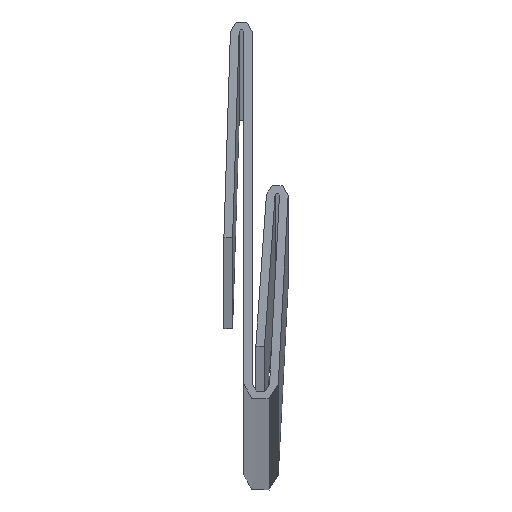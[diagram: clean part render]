
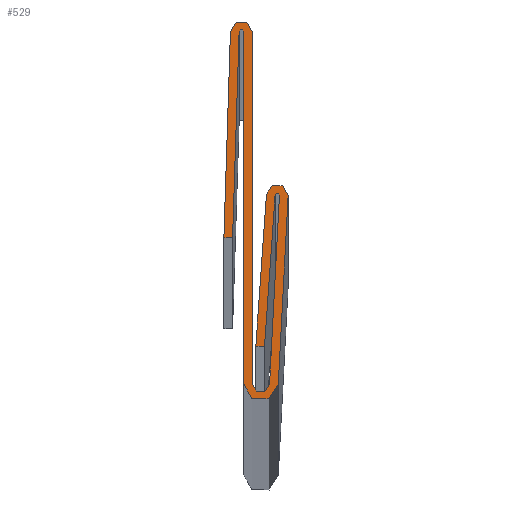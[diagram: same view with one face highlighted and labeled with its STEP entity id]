
A CAD part, top view. The second image highlights one B-rep face of the part: STEP entity #529.
In plain terms, the highlighted planar face has unit normal (0, 0, 1).
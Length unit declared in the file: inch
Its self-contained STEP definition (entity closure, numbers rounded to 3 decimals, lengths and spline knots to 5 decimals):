
#3 = VECTOR ( 'NONE', #233, 39.37008 ) ;
#4 = EDGE_LOOP ( 'NONE', ( #600, #369, #612, #228, #53, #254, #199, #264, #417, #564, #211, #496, #78, #190, #362, #207 ) ) ;
#6 = CARTESIAN_POINT ( 'NONE',  ( 0., 0.04, 120. ) ) ;
#8 = VECTOR ( 'NONE', #273, 39.37008 ) ;
#10 = DIRECTION ( 'NONE',  ( 1., 0., 0. ) ) ;
#22 = EDGE_CURVE ( 'NONE', #367, #294, #87, .T. ) ;
#28 = CARTESIAN_POINT ( 'NONE',  ( 0.05997, 0.03895, 120. ) ) ;
#35 = EDGE_CURVE ( 'NONE', #471, #408, #246, .T. ) ;
#41 = VECTOR ( 'NONE', #411, 39.37008 ) ;
#42 = EDGE_CURVE ( 'NONE', #84, #471, #185, .T. ) ;
#43 = VECTOR ( 'NONE', #570, 39.37008 ) ;
#49 = DIRECTION ( 'NONE',  ( 1., 0., 0. ) ) ;
#53 = ORIENTED_EDGE ( 'NONE', *, *, #172, .F. ) ;
#54 = AXIS2_PLACEMENT_3D ( 'NONE', #472, #279, #604 ) ;
#55 = CARTESIAN_POINT ( 'NONE',  ( -0.02506, 0.3754, 120. ) ) ;
#58 = VERTEX_POINT ( 'NONE', #129 ) ;
#59 = FACE_OUTER_BOUND ( 'NONE', #4, .T. ) ;
#60 = VERTEX_POINT ( 'NONE', #313 ) ;
#68 = CARTESIAN_POINT ( 'NONE',  ( 0., 0.85, 120. ) ) ;
#71 = CARTESIAN_POINT ( 'NONE',  ( -0.01, 0.85016, 120. ) ) ;
#72 = VERTEX_POINT ( 'NONE', #68 ) ;
#74 = LINE ( 'NONE', #158, #206 ) ;
#78 = ORIENTED_EDGE ( 'NONE', *, *, #306, .T. ) ;
#79 = CARTESIAN_POINT ( 'NONE',  ( 0.05281, 0.4754, 120. ) ) ;
#81 = CARTESIAN_POINT ( 'NONE',  ( 0.05997, 0.03895, 120. ) ) ;
#83 = CARTESIAN_POINT ( 'NONE',  ( 0., 0.04, 120. ) ) ;
#84 = VERTEX_POINT ( 'NONE', #268 ) ;
#87 = LINE ( 'NONE', #162, #563 ) ;
#93 = VECTOR ( 'NONE', #170, 39.37008 ) ;
#100 = CARTESIAN_POINT ( 'NONE',  ( -0.04505, 0.37603, 120. ) ) ;
#101 = VECTOR ( 'NONE', #426, 39.37008 ) ;
#109 = DIRECTION ( 'NONE',  ( 1., 0., 0. ) ) ;
#118 = EDGE_CURVE ( 'NONE', #60, #457, #603, .T. ) ;
#121 = CARTESIAN_POINT ( 'NONE',  ( -0.005, 0.85, 120. ) ) ;
#129 = CARTESIAN_POINT ( 'NONE',  ( 0.05281, 0.4754, 120. ) ) ;
#130 = CIRCLE ( 'NONE', #560, 0.025 ) ;
#131 = LINE ( 'NONE', #28, #498 ) ;
#133 = EDGE_CURVE ( 'NONE', #562, #194, #475, .T. ) ;
#153 = VERTEX_POINT ( 'NONE', #470 ) ;
#158 = CARTESIAN_POINT ( 'NONE',  ( -0.02506, 0.3754, 120. ) ) ;
#162 = CARTESIAN_POINT ( 'NONE',  ( 0.07995, 0.03791, 120. ) ) ;
#163 = CARTESIAN_POINT ( 'NONE',  ( 0.04, 0.04, 120. ) ) ;
#164 = LINE ( 'NONE', #465, #41 ) ;
#170 = DIRECTION ( 'NONE',  ( 0., -1., 0. ) ) ;
#172 = EDGE_CURVE ( 'NONE', #239, #153, #131, .T. ) ;
#181 = CARTESIAN_POINT ( 'NONE',  ( 0.10271, 0.47235, 120. ) ) ;
#182 = CARTESIAN_POINT ( 'NONE',  ( 0.07276, 0.47401, 120. ) ) ;
#185 = CIRCLE ( 'NONE', #189, 0.025 ) ;
#189 = AXIS2_PLACEMENT_3D ( 'NONE', #121, #326, #368 ) ;
#190 = ORIENTED_EDGE ( 'NONE', *, *, #259, .T. ) ;
#194 = VERTEX_POINT ( 'NONE', #235 ) ;
#198 = EDGE_CURVE ( 'NONE', #153, #60, #481, .T. ) ;
#199 = ORIENTED_EDGE ( 'NONE', *, *, #35, .F. ) ;
#206 = VECTOR ( 'NONE', #359, 39.37008 ) ;
#207 = ORIENTED_EDGE ( 'NONE', *, *, #293, .T. ) ;
#211 = ORIENTED_EDGE ( 'NONE', *, *, #133, .T. ) ;
#215 = AXIS2_PLACEMENT_3D ( 'NONE', #446, #402, #10 ) ;
#220 = DIRECTION ( 'NONE',  ( 0.032, 0.999, 0. ) ) ;
#228 = ORIENTED_EDGE ( 'NONE', *, *, #198, .F. ) ;
#233 = DIRECTION ( 'NONE',  ( 0.032, 0.999, 0. ) ) ;
#235 = CARTESIAN_POINT ( 'NONE',  ( -0.01, 0.85016, 120. ) ) ;
#239 = VERTEX_POINT ( 'NONE', #81 ) ;
#242 = EDGE_CURVE ( 'NONE', #58, #414, #363, .T. ) ;
#246 = LINE ( 'NONE', #599, #93 ) ;
#252 = DIRECTION ( 'NONE',  ( 0., 0., -1. ) ) ;
#254 = ORIENTED_EDGE ( 'NONE', *, *, #442, .F. ) ;
#259 = EDGE_CURVE ( 'NONE', #490, #367, #521, .T. ) ;
#260 = CARTESIAN_POINT ( 'NONE',  ( 0.02839, 0.12625, 120. ) ) ;
#264 = ORIENTED_EDGE ( 'NONE', *, *, #42, .F. ) ;
#268 = CARTESIAN_POINT ( 'NONE',  ( -0.02999, 0.85079, 120. ) ) ;
#270 = LINE ( 'NONE', #507, #307 ) ;
#273 = DIRECTION ( 'NONE',  ( -0.07, -0.998, 0. ) ) ;
#276 = DIRECTION ( 'NONE',  ( 1., 0., 0. ) ) ;
#279 = DIRECTION ( 'NONE',  ( 0., 0., 1. ) ) ;
#283 = AXIS2_PLACEMENT_3D ( 'NONE', #495, #252, #49 ) ;
#293 = EDGE_CURVE ( 'NONE', #294, #58, #130, .T. ) ;
#294 = VERTEX_POINT ( 'NONE', #181 ) ;
#305 = CARTESIAN_POINT ( 'NONE',  ( 0.02, 0.85, 120. ) ) ;
#306 = EDGE_CURVE ( 'NONE', #72, #490, #400, .T. ) ;
#307 = VECTOR ( 'NONE', #220, 39.37008 ) ;
#311 = AXIS2_PLACEMENT_3D ( 'NONE', #163, #407, #109 ) ;
#313 = CARTESIAN_POINT ( 'NONE',  ( 0.07276, 0.47401, 120. ) ) ;
#325 = CARTESIAN_POINT ( 'NONE',  ( 0.04, 0.04, 120. ) ) ;
#326 = DIRECTION ( 'NONE',  ( 0., 0., -1. ) ) ;
#337 = CARTESIAN_POINT ( 'NONE',  ( 0.07995, 0.03791, 120. ) ) ;
#340 = CARTESIAN_POINT ( 'NONE',  ( 0.07775, 0.47366, 120. ) ) ;
#359 = DIRECTION ( 'NONE',  ( -0.999, 0.032, 0. ) ) ;
#362 = ORIENTED_EDGE ( 'NONE', *, *, #22, .T. ) ;
#363 = LINE ( 'NONE', #79, #101 ) ;
#367 = VERTEX_POINT ( 'NONE', #337 ) ;
#368 = DIRECTION ( 'NONE',  ( 1., 0., 0. ) ) ;
#369 = ORIENTED_EDGE ( 'NONE', *, *, #567, .F. ) ;
#382 = CIRCLE ( 'NONE', #283, 0.005 ) ;
#383 = VERTEX_POINT ( 'NONE', #100 ) ;
#399 = PLANE ( 'NONE',  #215 ) ;
#400 = LINE ( 'NONE', #83, #43 ) ;
#402 = DIRECTION ( 'NONE',  ( 0., 0., 1. ) ) ;
#407 = DIRECTION ( 'NONE',  ( 0., 0., 1. ) ) ;
#408 = VERTEX_POINT ( 'NONE', #581 ) ;
#411 = DIRECTION ( 'NONE',  ( -0.998, 0.07, 0. ) ) ;
#412 = EDGE_CURVE ( 'NONE', #562, #383, #74, .T. ) ;
#414 = VERTEX_POINT ( 'NONE', #260 ) ;
#417 = ORIENTED_EDGE ( 'NONE', *, *, #576, .F. ) ;
#426 = DIRECTION ( 'NONE',  ( -0.07, -0.998, 0. ) ) ;
#427 = DIRECTION ( 'NONE',  ( 0.052, 0.999, 0. ) ) ;
#433 = DIRECTION ( 'NONE',  ( 0., 0., 1. ) ) ;
#434 = DIRECTION ( 'NONE',  ( 1., 0., 0. ) ) ;
#442 = EDGE_CURVE ( 'NONE', #408, #239, #610, .T. ) ;
#446 = CARTESIAN_POINT ( 'NONE',  ( 0.07775, 0.47366, 120. ) ) ;
#456 = CARTESIAN_POINT ( 'NONE',  ( 0.04834, 0.12485, 120. ) ) ;
#457 = VERTEX_POINT ( 'NONE', #456 ) ;
#465 = CARTESIAN_POINT ( 'NONE',  ( 0.04834, 0.12485, 120. ) ) ;
#470 = CARTESIAN_POINT ( 'NONE',  ( 0.08274, 0.4734, 120. ) ) ;
#471 = VERTEX_POINT ( 'NONE', #305 ) ;
#472 = CARTESIAN_POINT ( 'NONE',  ( 0.07775, 0.47366, 120. ) ) ;
#475 = LINE ( 'NONE', #71, #3 ) ;
#481 = CIRCLE ( 'NONE', #54, 0.005 ) ;
#490 = VERTEX_POINT ( 'NONE', #6 ) ;
#495 = CARTESIAN_POINT ( 'NONE',  ( -0.005, 0.85, 120. ) ) ;
#496 = ORIENTED_EDGE ( 'NONE', *, *, #510, .T. ) ;
#498 = VECTOR ( 'NONE', #427, 39.37008 ) ;
#507 = CARTESIAN_POINT ( 'NONE',  ( -0.02999, 0.85079, 120. ) ) ;
#509 = DIRECTION ( 'NONE',  ( 0.052, 0.999, 0. ) ) ;
#510 = EDGE_CURVE ( 'NONE', #194, #72, #382, .T. ) ;
#521 = CIRCLE ( 'NONE', #528, 0.04 ) ;
#528 = AXIS2_PLACEMENT_3D ( 'NONE', #325, #556, #276 ) ;
#529 = ADVANCED_FACE ( 'NONE', ( #59 ), #399, .T. ) ;
#556 = DIRECTION ( 'NONE',  ( 0., 0., 1. ) ) ;
#560 = AXIS2_PLACEMENT_3D ( 'NONE', #340, #433, #434 ) ;
#562 = VERTEX_POINT ( 'NONE', #55 ) ;
#563 = VECTOR ( 'NONE', #509, 39.37008 ) ;
#564 = ORIENTED_EDGE ( 'NONE', *, *, #412, .F. ) ;
#567 = EDGE_CURVE ( 'NONE', #457, #414, #164, .T. ) ;
#570 = DIRECTION ( 'NONE',  ( 0., -1., 0. ) ) ;
#576 = EDGE_CURVE ( 'NONE', #383, #84, #270, .T. ) ;
#581 = CARTESIAN_POINT ( 'NONE',  ( 0.02, 0.04, 120. ) ) ;
#599 = CARTESIAN_POINT ( 'NONE',  ( 0.02, 0.04, 120. ) ) ;
#600 = ORIENTED_EDGE ( 'NONE', *, *, #242, .T. ) ;
#603 = LINE ( 'NONE', #182, #8 ) ;
#604 = DIRECTION ( 'NONE',  ( 1., 0., 0. ) ) ;
#610 = CIRCLE ( 'NONE', #311, 0.02 ) ;
#612 = ORIENTED_EDGE ( 'NONE', *, *, #118, .F. ) ;
